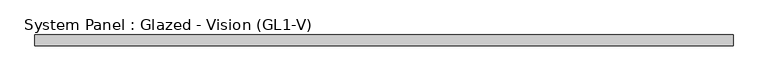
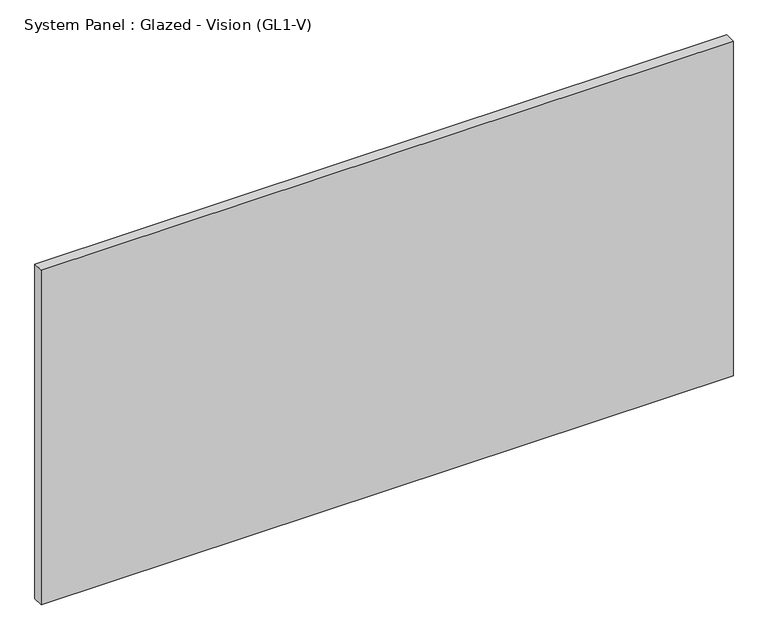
"""IFC4 building model written with IfcOpenShell, lengths in millimetres: plate geometry, System Panel : Glazed - Vision (GL1-V)."""

from ifc_helpers import new_model, si_unit, origin, origin_with_axes, place, context, project, spatial, polyline, outline, extrude, source, transform, mapped, element, save


def system_panel_glazed_vision_gl1_v_7efa22f5(model_context):
    return source(origin(), model_context, "Body", "SweptSolid", [
        extrude(outline(polyline([(813.9193889, -25.4), (-813.9193889, -25.4), (-813.9193889, 0.0), (813.9193889, 0.0), (813.9193889, -25.4)])), origin_with_axes(), (0.0, 0.0, 1.0), 831.85),
    ])


if __name__ == "__main__":
    model = new_model("IFC4")
    model_context = context("Model", 3, world=origin())
    ifc_project = project(units=[si_unit("LENGTHUNIT", "METRE", prefix="MILLI")], contexts=[model_context])
    site = spatial("IfcSite", under=ifc_project)
    building = spatial("IfcBuilding", under=site)
    placement = place(None, origin())
    system_panel_glazed_vision_gl1_v_shape = system_panel_glazed_vision_gl1_v_7efa22f5(model_context)
    element("IfcPlate", 1, ObjectType="System Panel : Glazed - Vision (GL1-V)", at=placement, inside=building, context=model_context, shape_type="MappedRepresentation", body=[
        mapped(system_panel_glazed_vision_gl1_v_shape, transform((0.0, 0.0, 0.0), x_axis=(1.0, 0.0, 0.0), y_axis=(0.0, 1.0, 0.0), z_axis=(0.0, 0.0, 1.0))),
    ])
    save(model, "model.ifc")
